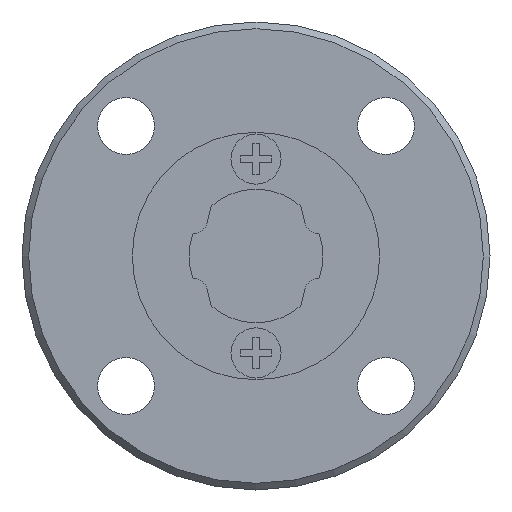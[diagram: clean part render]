
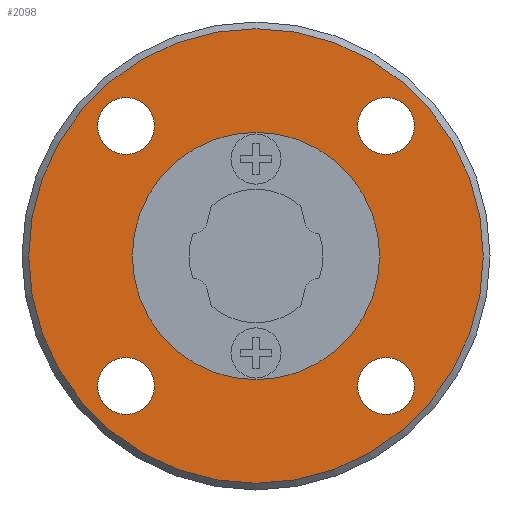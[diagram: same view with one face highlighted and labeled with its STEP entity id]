
A CAD part, left-side view. The second image highlights one B-rep face of the part: STEP entity #2098.
In plain terms, the highlighted planar face has unit normal (-1, 0, 0).
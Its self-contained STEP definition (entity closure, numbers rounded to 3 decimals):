
#48=PLANE('',#2319);
#702=ORIENTED_EDGE('',*,*,#1233,.F.);
#703=ORIENTED_EDGE('',*,*,#1234,.F.);
#704=ORIENTED_EDGE('',*,*,#1235,.F.);
#705=ORIENTED_EDGE('',*,*,#1236,.F.);
#706=ORIENTED_EDGE('',*,*,#1237,.F.);
#707=ORIENTED_EDGE('',*,*,#1232,.T.);
#1232=EDGE_CURVE('',#1508,#1508,#1676,.T.);
#1233=EDGE_CURVE('',#1509,#1509,#1677,.T.);
#1234=EDGE_CURVE('',#1510,#1510,#1678,.F.);
#1235=EDGE_CURVE('',#1511,#1511,#1679,.F.);
#1236=EDGE_CURVE('',#1512,#1512,#1680,.F.);
#1237=EDGE_CURVE('',#1513,#1513,#1681,.F.);
#1508=VERTEX_POINT('',#3339);
#1509=VERTEX_POINT('',#3342);
#1510=VERTEX_POINT('',#3344);
#1511=VERTEX_POINT('',#3346);
#1512=VERTEX_POINT('',#3348);
#1513=VERTEX_POINT('',#3350);
#1676=CIRCLE('',#2318,7.4);
#1677=CIRCLE('',#2320,13.6);
#1678=CIRCLE('',#2321,1.7);
#1679=CIRCLE('',#2322,1.7);
#1680=CIRCLE('',#2323,1.7);
#1681=CIRCLE('',#2324,1.7);
#1732=EDGE_LOOP('',(#702));
#1733=EDGE_LOOP('',(#703));
#1734=EDGE_LOOP('',(#704));
#1735=EDGE_LOOP('',(#705));
#1736=EDGE_LOOP('',(#706));
#1737=EDGE_LOOP('',(#707));
#1896=FACE_BOUND('',#1732,.T.);
#1897=FACE_BOUND('',#1733,.T.);
#1898=FACE_BOUND('',#1734,.T.);
#1899=FACE_BOUND('',#1735,.T.);
#1900=FACE_BOUND('',#1736,.T.);
#1901=FACE_BOUND('',#1737,.T.);
#2098=ADVANCED_FACE('',(#1896,#1897,#1898,#1899,#1900,#1901),#48,.F.);
#2318=AXIS2_PLACEMENT_3D('',#3338,#2695,#2696);
#2319=AXIS2_PLACEMENT_3D('',#3340,#2697,#2698);
#2320=AXIS2_PLACEMENT_3D('',#3341,#2699,#2700);
#2321=AXIS2_PLACEMENT_3D('',#3343,#2701,#2702);
#2322=AXIS2_PLACEMENT_3D('',#3345,#2703,#2704);
#2323=AXIS2_PLACEMENT_3D('',#3347,#2705,#2706);
#2324=AXIS2_PLACEMENT_3D('',#3349,#2707,#2708);
#2695=DIRECTION('',(1.,0.,0.));
#2696=DIRECTION('',(0.,0.,-1.));
#2697=DIRECTION('',(1.,0.,0.));
#2698=DIRECTION('',(0.,0.,-1.));
#2699=DIRECTION('',(1.,0.,0.));
#2700=DIRECTION('',(0.,0.,-1.));
#2701=DIRECTION('',(1.,0.,0.));
#2702=DIRECTION('',(0.,0.,-1.));
#2703=DIRECTION('',(1.,0.,0.));
#2704=DIRECTION('',(0.,0.,-1.));
#2705=DIRECTION('',(1.,0.,0.));
#2706=DIRECTION('',(0.,0.,-1.));
#2707=DIRECTION('',(1.,0.,0.));
#2708=DIRECTION('',(0.,0.,-1.));
#3338=CARTESIAN_POINT('',(-7.3,0.,0.));
#3339=CARTESIAN_POINT('',(-7.3,0.,-7.4));
#3340=CARTESIAN_POINT('',(-7.3,7.4,0.));
#3341=CARTESIAN_POINT('',(-7.3,0.,0.));
#3342=CARTESIAN_POINT('',(-7.3,0.,-13.6));
#3343=CARTESIAN_POINT('',(-7.3,-7.778,7.778));
#3344=CARTESIAN_POINT('',(-7.3,-7.778,6.078));
#3345=CARTESIAN_POINT('',(-7.3,-7.778,-7.778));
#3346=CARTESIAN_POINT('',(-7.3,-7.778,-9.478));
#3347=CARTESIAN_POINT('',(-7.3,7.778,-7.778));
#3348=CARTESIAN_POINT('',(-7.3,7.778,-9.478));
#3349=CARTESIAN_POINT('',(-7.3,7.778,7.778));
#3350=CARTESIAN_POINT('',(-7.3,7.778,6.078));
